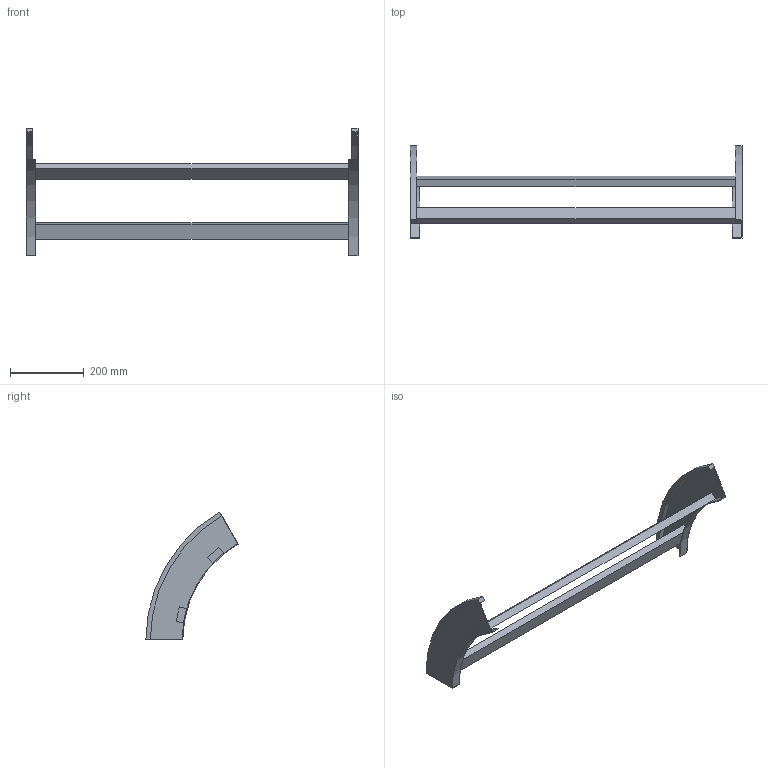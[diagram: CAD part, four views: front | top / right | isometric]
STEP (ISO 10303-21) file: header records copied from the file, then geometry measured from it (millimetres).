
FILE_DESCRIPTION (( 'STEP AP214' ), '1' );
FILE_NAME ('B2_41B3D900.step', '2025-02-21T14:57:31', ( '' ), ( '' ), 'SwSTEP 2.0', 'SolidWorks 2023', '' );
FILE_SCHEMA (( 'AUTOMOTIVE_DESIGN' ));
Length unit declared in the file: millimetre
Products named in the file (3): B2_LONGH.DISCESA_60°_H100_R300; B2_41B3D900; TRAVERSINO_900
Assembly tree (4 placements, depth 2):
  B2_41B3D900
    B2_LONGH.DISCESA_60°_H100_R300  x2
    TRAVERSINO_900  x2
Bounding box: 900 x 250 x 346.41 mm (x, y, z)
Volume: 1788085.1 mm3; surface area: 429306.6 mm2
Topology: 4 solids, 4 shells, 32 faces, 72 edges, 48 vertices
Faces by surface type: plane 24, cylinder 8
Entity records: 552 total; most frequent: DIRECTION 90, CARTESIAN_POINT 83, ORIENTED_EDGE 72, EDGE_CURVE 36, AXIS2_PLACEMENT_3D 31, VECTOR 28, LINE 28, VERTEX_POINT 24
